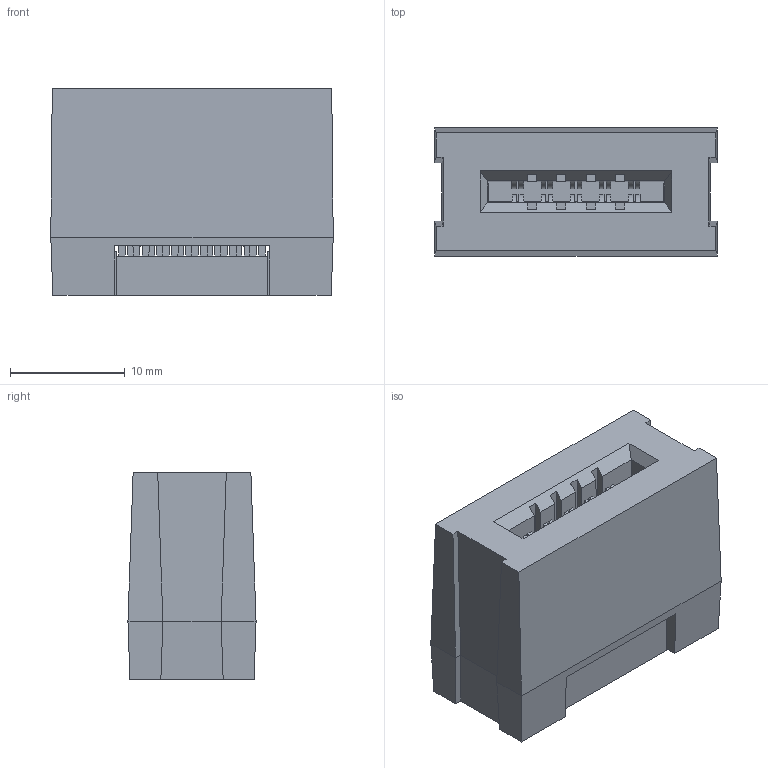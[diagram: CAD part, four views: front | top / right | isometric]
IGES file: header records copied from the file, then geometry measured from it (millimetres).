
Global section: file name: Q:\us297865\11257-card-edge-web-model\78-5110-5951-7.igs; native system: NX V7.5; preprocessor: SIEMENS PLM Software NX 7.5; date: 20110823.104738; units: inch
Bounding box: 24.64 x 11.18 x 18.03 mm (x, y, z)
Surface area: 3029.3 mm2 (no closed solid volume)
Topology: 0 solids, 0 shells, 354 faces, 2184 edges, 2253 vertices
Faces by surface type: bspline 354
